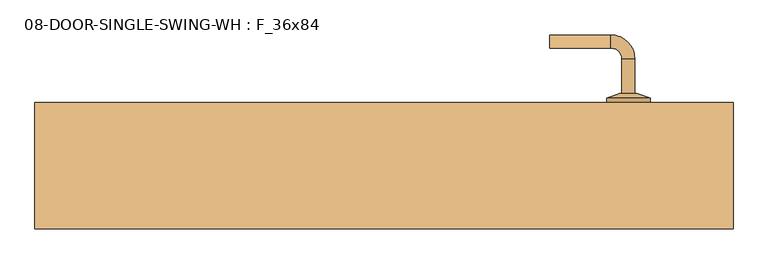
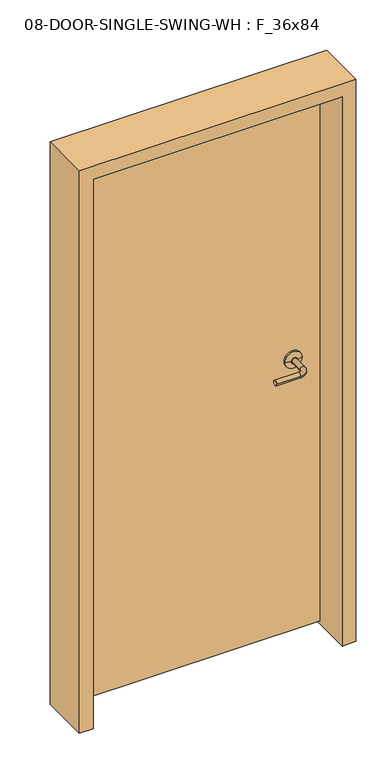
"""IFC4 building model written with IfcOpenShell, lengths in millimetres: door geometry, 08-DOOR-SINGLE-SWING-WH : F_36x84."""

from ifc_helpers import new_model, si_unit, point, frame, origin, place, context, project, spatial, polyline, circle_curve, ellipse_curve, trimmed, outline, extrude, source, transform, mapped, element, save
from ifc_brep_helpers import plane_surface, cylinder_surface, revolved_surface, advanced_brep


def door_08_door_single_swing_wh_f_36x84_84392a36(model_context):
    return source(origin(), model_context, "Body", "SolidModel", [
        advanced_brep(
        [(364.4403202, 34.925, 1066.8), (383.4903202, 34.925, 1066.8), (383.4903202, -15.875, 1066.8), (364.4403202, -15.875, 1066.8), (348.5653202, -31.75, 1066.8), (348.5653202, -50.8, 1066.8), (259.6653202, -31.75, 1066.8), (259.6653202, -50.8, 1066.8)],
        [
            (0, 1, circle_curve(frame((373.9653202, 34.925, 1066.8), z_axis=(0.0, 1.0, 0.0), x_axis=(1.0, 0.0, 0.0)), 9.525)),
            (1, 0, circle_curve(frame((373.9653202, 34.925, 1066.8), z_axis=(0.0, 1.0, 0.0), x_axis=(1.0, 0.0, 0.0)), 9.525)),
            (1, 2),
            (2, 3, circle_curve(frame((373.9653202, -15.875, 1066.8), z_axis=(0.0, 1.0, 0.0), x_axis=(1.0, 0.0, 0.0)), 9.525)),
            (3, 0),
            (3, 2, circle_curve(frame((373.9653202, -15.875, 1066.8), z_axis=(0.0, 1.0, 0.0), x_axis=(1.0, 0.0, 0.0)), 9.525)),
            (4, 3, circle_curve(frame((348.5653202, -15.875, 1066.8), z_axis=(0.0, 0.0, 1.0), x_axis=(1.0, 0.0, 0.0)), 15.875)),
            (2, 5, circle_curve(frame((348.5653202, -15.875, 1066.8), z_axis=(0.0, 0.0, -1.0), x_axis=(1.0, 0.0, 0.0)), 34.925)),
            (5, 4, circle_curve(frame((348.5653202, -41.275, 1066.8), z_axis=(1.0, 0.0, 0.0), x_axis=(0.0, -1.0, 0.0)), 9.525)),
            (4, 5, circle_curve(frame((348.5653202, -41.275, 1066.8), z_axis=(1.0, 0.0, 0.0), x_axis=(0.0, -1.0, 0.0)), 9.525)),
            (6, 7, circle_curve(frame((259.6653202, -41.275, 1066.8), z_axis=(-1.0, 0.0, 0.0), x_axis=(0.0, -1.0, 0.0)), 9.525)),
            (7, 6, circle_curve(frame((259.6653202, -41.275, 1066.8), z_axis=(-1.0, 0.0, 0.0), x_axis=(0.0, -1.0, 0.0)), 9.525)),
            (5, 7),
            (6, 4),
        ],
        [
            plane_surface(frame((373.9653202, 34.925, 1066.8), z_axis=(0.0, 1.0, 0.0), x_axis=(0.0, 0.0, 1.0))),
            cylinder_surface(frame((373.9653202, 34.925, 1066.8), z_axis=(0.0, 1.0, 0.0), x_axis=(1.0, 0.0, 0.0)), 9.525),
            revolved_surface(trimmed(ellipse_curve(frame((373.9653202, -15.875, 1066.8), z_axis=(0.0, 1.0, 0.0), x_axis=(1.0, 0.0, 0.0)), 9.525, 9.525), [point((383.4903202, -15.875, 1066.8))], [point((364.4403202, -15.875, 1066.8))], True, "CARTESIAN"), (348.5653202, -15.875, 1066.8), (0.0, 0.0, -1.0)),
            revolved_surface(trimmed(ellipse_curve(frame((373.9653202, -15.875, 1066.8), z_axis=(0.0, 1.0, 0.0), x_axis=(1.0, 0.0, 0.0)), 9.525, 9.525), [point((364.4403202, -15.875, 1066.8))], [point((383.4903202, -15.875, 1066.8))], True, "CARTESIAN"), (348.5653202, -15.875, 1066.8), (0.0, 0.0, -1.0)),
            plane_surface(frame((259.6653202, -41.275, 1066.8), z_axis=(-1.0, 0.0, 0.0), x_axis=(0.0, 0.0, 1.0))),
            cylinder_surface(frame((348.5653202, -41.275, 1066.8), z_axis=(1.0, 0.0, 0.0), x_axis=(0.0, -1.0, 0.0)), 9.525),
        ],
        [
            (0, [[1, 2]]),
            (1, [[-2, 3, 4, 5]]),
            (1, [[-1, -5, 6, -3]]),
            (2, [[7, -4, 8, 9]]),
            (3, [[-8, -6, -7, 10]]),
            (4, [[11, 12]]),
            (5, [[-9, 13, -11, 14]]),
            (5, [[-10, -14, -12, -13]]),
        ],
    ),
        advanced_brep(
        [(373.9653202, 47.625, 1066.8), (405.7153202, 47.625, 1066.8), (342.2153202, 47.625, 1066.8), (405.7153202, 41.275, 1066.8), (342.2153202, 41.275, 1066.8), (386.6653202, 34.925, 1066.8), (361.2653202, 34.925, 1066.8), (373.9653202, 34.925, 1066.8)],
        [
            (0, 1),
            (1, 2, circle_curve(frame((373.9653202, 47.625, 1066.8), z_axis=(0.0, 1.0, 0.0), x_axis=(1.0, 0.0, 0.0)), 31.75)),
            (2, 0),
            (2, 1, circle_curve(frame((373.9653202, 47.625, 1066.8), z_axis=(0.0, 1.0, 0.0), x_axis=(1.0, 0.0, 0.0)), 31.75)),
            (1, 3),
            (3, 4, circle_curve(frame((373.9653202, 41.275, 1066.8), z_axis=(0.0, 1.0, 0.0), x_axis=(1.0, 0.0, 0.0)), 31.75)),
            (4, 2),
            (4, 3, circle_curve(frame((373.9653202, 41.275, 1066.8), z_axis=(0.0, 1.0, 0.0), x_axis=(1.0, 0.0, 0.0)), 31.75)),
            (3, 5),
            (5, 6, circle_curve(frame((373.9653202, 34.925, 1066.8), z_axis=(0.0, 1.0, 0.0), x_axis=(1.0, 0.0, 0.0)), 12.7)),
            (6, 4),
            (6, 5, circle_curve(frame((373.9653202, 34.925, 1066.8), z_axis=(0.0, 1.0, 0.0), x_axis=(1.0, 0.0, 0.0)), 12.7)),
            (5, 7),
            (7, 6),
        ],
        [
            plane_surface(frame((373.9653202, 47.625, 1066.8), z_axis=(0.0, 1.0, 0.0), x_axis=(1.0, 0.0, 0.0))),
            cylinder_surface(frame((373.9653202, 38.0168504, 1066.8), z_axis=(0.0, 1.0, 0.0), x_axis=(1.0, 0.0, 0.0)), 31.75),
            revolved_surface(polyline([(386.6653202, 34.925, 1066.8), (405.7153202, 41.275, 1066.8)]), (373.9653202, 38.0168504, 1066.8), (0.0, 1.0, 0.0)),
            plane_surface(frame((373.9653202, 34.925, 1066.8), z_axis=(0.0, -1.0, 0.0), x_axis=(1.0, 0.0, 0.0))),
        ],
        [
            (0, [[1, 2, 3]]),
            (0, [[-3, 4, -1]]),
            (1, [[-2, 5, 6, 7]]),
            (1, [[-4, -7, 8, -5]]),
            (2, [[-6, 9, 10, 11]]),
            (2, [[-8, -11, 12, -9]]),
            (3, [[-10, 13, 14]]),
            (3, [[-12, -14, -13]]),
        ],
    ),
        advanced_brep(
        [(383.4903202, 104.775, 1066.8), (364.4403202, 104.775, 1066.8), (383.4903202, 155.575, 1066.8), (364.4403202, 155.575, 1066.8), (348.5653202, 171.45, 1066.8), (348.5653202, 190.5, 1066.8), (259.6653202, 190.5, 1066.8), (259.6653202, 171.45, 1066.8)],
        [
            (0, 1, circle_curve(frame((373.9653202, 104.775, 1066.8), z_axis=(0.0, -1.0, 0.0), x_axis=(-1.0, 0.0, 0.0)), 9.525)),
            (1, 0, circle_curve(frame((373.9653202, 104.775, 1066.8), z_axis=(0.0, -1.0, 0.0), x_axis=(-1.0, 0.0, 0.0)), 9.525)),
            (0, 2),
            (2, 3, circle_curve(frame((373.9653202, 155.575, 1066.8), z_axis=(0.0, -1.0, 0.0), x_axis=(-1.0, 0.0, 0.0)), 9.525)),
            (3, 1),
            (3, 2, circle_curve(frame((373.9653202, 155.575, 1066.8), z_axis=(0.0, -1.0, 0.0), x_axis=(-1.0, 0.0, 0.0)), 9.525)),
            (4, 3, circle_curve(frame((348.5653202, 155.575, 1066.8), z_axis=(0.0, 0.0, -1.0), x_axis=(1.0, 0.0, 0.0)), 15.875)),
            (2, 5, circle_curve(frame((348.5653202, 155.575, 1066.8), z_axis=(0.0, 0.0, 1.0), x_axis=(1.0, 0.0, 0.0)), 34.925)),
            (5, 4, circle_curve(frame((348.5653202, 180.975, 1066.8), z_axis=(1.0, 0.0, 0.0), x_axis=(0.0, -1.0, 0.0)), 9.525)),
            (4, 5, circle_curve(frame((348.5653202, 180.975, 1066.8), z_axis=(1.0, 0.0, 0.0), x_axis=(0.0, -1.0, 0.0)), 9.525)),
            (6, 7, circle_curve(frame((259.6653202, 180.975, 1066.8), z_axis=(-1.0, 0.0, 0.0), x_axis=(0.0, -1.0, 0.0)), 9.525)),
            (7, 6, circle_curve(frame((259.6653202, 180.975, 1066.8), z_axis=(-1.0, 0.0, 0.0), x_axis=(0.0, -1.0, 0.0)), 9.525)),
            (5, 6),
            (7, 4),
        ],
        [
            plane_surface(frame((373.9653202, 104.775, 1066.8), z_axis=(0.0, -1.0, 0.0), x_axis=(0.0, 0.0, 1.0))),
            cylinder_surface(frame((373.9653202, 104.775, 1066.8), z_axis=(0.0, -1.0, 0.0), x_axis=(-1.0, 0.0, 0.0)), 9.525),
            revolved_surface(trimmed(ellipse_curve(frame((373.9653202, 155.575, 1066.8), z_axis=(0.0, -1.0, 0.0), x_axis=(-1.0, 0.0, 0.0)), 9.525, 9.525), [point((383.4903202, 155.575, 1066.8))], [point((364.4403202, 155.575, 1066.8))], True, "CARTESIAN"), (348.5653202, 155.575, 1066.8), (0.0, 0.0, 1.0)),
            revolved_surface(trimmed(ellipse_curve(frame((373.9653202, 155.575, 1066.8), z_axis=(0.0, -1.0, 0.0), x_axis=(-1.0, 0.0, 0.0)), 9.525, 9.525), [point((364.4403202, 155.575, 1066.8))], [point((383.4903202, 155.575, 1066.8))], True, "CARTESIAN"), (348.5653202, 155.575, 1066.8), (0.0, 0.0, 1.0)),
            plane_surface(frame((259.6653202, 180.975, 1066.8), z_axis=(-1.0, 0.0, 0.0), x_axis=(0.0, 0.0, 1.0))),
            cylinder_surface(frame((348.5653202, 180.975, 1066.8), z_axis=(1.0, 0.0, 0.0), x_axis=(0.0, -1.0, 0.0)), 9.525),
        ],
        [
            (0, [[1, 2]]),
            (1, [[-1, 3, 4, 5]]),
            (1, [[-2, -5, 6, -3]]),
            (2, [[7, -4, 8, 9]]),
            (3, [[-8, -6, -7, 10]]),
            (4, [[11, 12]]),
            (5, [[-9, 13, -12, 14]]),
            (5, [[-10, -14, -11, -13]]),
        ],
    ),
        advanced_brep(
        [(342.2153202, 92.075, 1066.8), (405.7153202, 92.075, 1066.8), (373.9653202, 92.075, 1066.8), (342.2153202, 98.425, 1066.8), (405.7153202, 98.425, 1066.8), (361.2653202, 104.775, 1066.8), (386.6653202, 104.775, 1066.8), (373.9653202, 104.775, 1066.8)],
        [
            (0, 1, circle_curve(frame((373.9653202, 92.075, 1066.8), z_axis=(0.0, -1.0, 0.0), x_axis=(1.0, 0.0, 0.0)), 31.75)),
            (1, 2),
            (2, 0),
            (1, 0, circle_curve(frame((373.9653202, 92.075, 1066.8), z_axis=(0.0, -1.0, 0.0), x_axis=(1.0, 0.0, 0.0)), 31.75)),
            (3, 4, circle_curve(frame((373.9653202, 98.425, 1066.8), z_axis=(0.0, -1.0, 0.0), x_axis=(1.0, 0.0, 0.0)), 31.75)),
            (4, 1),
            (0, 3),
            (4, 3, circle_curve(frame((373.9653202, 98.425, 1066.8), z_axis=(0.0, -1.0, 0.0), x_axis=(1.0, 0.0, 0.0)), 31.75)),
            (5, 6, circle_curve(frame((373.9653202, 104.775, 1066.8), z_axis=(0.0, -1.0, 0.0), x_axis=(1.0, 0.0, 0.0)), 12.7)),
            (6, 4),
            (3, 5),
            (6, 5, circle_curve(frame((373.9653202, 104.775, 1066.8), z_axis=(0.0, -1.0, 0.0), x_axis=(1.0, 0.0, 0.0)), 12.7)),
            (7, 6),
            (5, 7),
        ],
        [
            plane_surface(frame((373.9653202, 92.075, 1066.8), z_axis=(0.0, -1.0, 0.0), x_axis=(1.0, 0.0, 0.0))),
            cylinder_surface(frame((373.9653202, 101.6831496, 1066.8), z_axis=(0.0, 1.0, 0.0), x_axis=(1.0, 0.0, 0.0)), 31.75),
            revolved_surface(polyline([(405.7153202, 98.425, 1066.8), (386.6653202, 104.775, 1066.8)]), (373.9653202, 101.6831496, 1066.8), (0.0, 1.0, 0.0)),
            plane_surface(frame((373.9653202, 104.775, 1066.8), z_axis=(0.0, 1.0, 0.0), x_axis=(1.0, 0.0, 0.0))),
        ],
        [
            (0, [[1, 2, 3]]),
            (0, [[4, -3, -2]]),
            (1, [[5, 6, -1, 7]]),
            (1, [[8, -7, -4, -6]]),
            (2, [[9, 10, -5, 11]]),
            (2, [[12, -11, -8, -10]]),
            (3, [[13, -9, 14]]),
            (3, [[-14, -12, -13]]),
        ],
    ),
        extrude(outline(polyline([(475.5653202, 47.625), (-438.8346798, 47.625), (-438.8346798, 92.075), (475.5653202, 92.075), (475.5653202, 47.625)])), frame((0.0, 0.0, 12.7), z_axis=(0.0, 0.0, 1.0), x_axis=(1.0, 0.0, 0.0)), (0.0, 0.0, 1.0), 2120.9),
        extrude(outline(polyline([(0.0, 475.5653202), (0.0, 526.3653202), (2184.4, 526.3653202), (2184.4, -489.6346798), (0.0, -489.6346798), (0.0, -438.8346798), (2133.6, -438.8346798), (2133.6, 475.5653202), (0.0, 475.5653202)])), frame((0.0, -92.075, 0.0), z_axis=(0.0, 1.0, 0.0), x_axis=(0.0, 0.0, 1.0)), (0.0, 0.0, 1.0), 184.15),
    ])


if __name__ == "__main__":
    model = new_model("IFC4")
    model_context = context("Model", 3, world=origin())
    ifc_project = project(units=[si_unit("LENGTHUNIT", "METRE", prefix="MILLI")], contexts=[model_context])
    site = spatial("IfcSite", under=ifc_project)
    building = spatial("IfcBuilding", under=site)
    placement = place(None, origin())
    door_08_door_single_swing_wh_f_36x84_shape = door_08_door_single_swing_wh_f_36x84_84392a36(model_context)
    element("IfcDoor", 1, ObjectType="08-DOOR-SINGLE-SWING-WH : F_36x84", at=placement, inside=building, context=model_context, shape_type="MappedRepresentation", body=[
        mapped(door_08_door_single_swing_wh_f_36x84_shape, transform((0.0, 0.0, 0.0), x_axis=(1.0, 0.0, 0.0), y_axis=(0.0, 1.0, 0.0), z_axis=(0.0, 0.0, 1.0))),
    ])
    save(model, "model.ifc")
